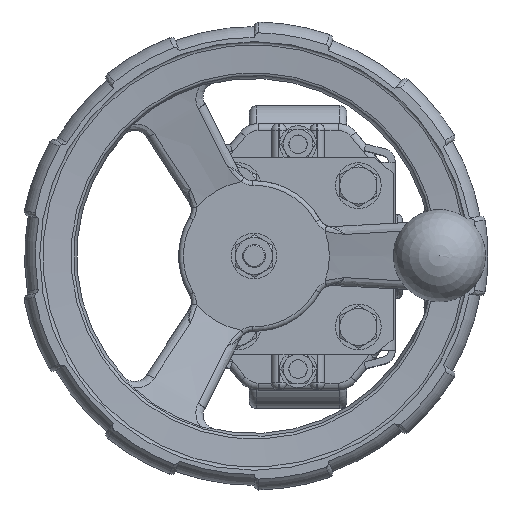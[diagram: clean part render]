
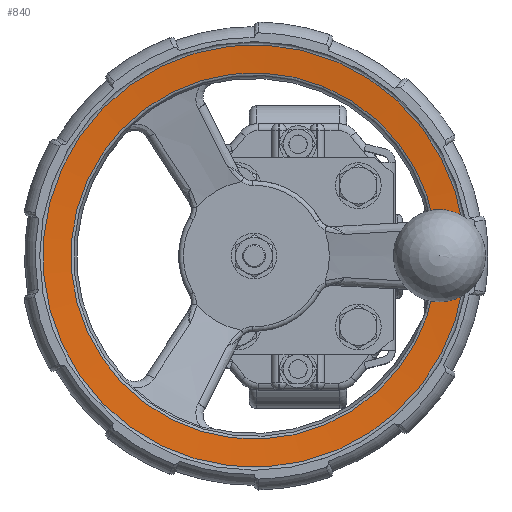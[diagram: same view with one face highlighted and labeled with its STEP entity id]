
A CAD part, top view. The second image highlights one B-rep face of the part: STEP entity #840.
In plain terms, the highlighted conical face has half-angle 85 degrees and reference radius 92.5 mm.
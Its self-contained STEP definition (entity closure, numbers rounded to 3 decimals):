
#840=ADVANCED_FACE('',(#2626),#2627,.F.);
#2626=FACE_OUTER_BOUND('',#42041,.T.);
#2627=CONICAL_SURFACE('',#42042,92.5,1.484);
#42041=EDGE_LOOP('',(#65143,#65144,#65145,#65146,#65147,#65148));
#42042=AXIS2_PLACEMENT_3D('',#65149,#65150,#65151);
#65143=ORIENTED_EDGE('',*,*,#70347,.T.);
#65144=ORIENTED_EDGE('',*,*,#70348,.T.);
#65145=ORIENTED_EDGE('',*,*,#69730,.T.);
#65146=ORIENTED_EDGE('',*,*,#70349,.T.);
#65147=ORIENTED_EDGE('',*,*,#70339,.T.);
#65148=ORIENTED_EDGE('',*,*,#70350,.T.);
#65149=CARTESIAN_POINT('',(-19.,0.,321.744));
#65150=DIRECTION('',(0.,0.,1.));
#65151=DIRECTION('',(-1.,0.,0.));
#69730=EDGE_CURVE('',#73423,#73424,#73425,.T.);
#70339=EDGE_CURVE('',#74375,#74377,#74379,.T.);
#70347=EDGE_CURVE('',#74387,#74388,#74389,.T.);
#70348=EDGE_CURVE('',#74388,#73423,#74390,.T.);
#70349=EDGE_CURVE('',#73424,#74375,#74391,.T.);
#70350=EDGE_CURVE('',#74377,#74387,#74392,.T.);
#73423=VERTEX_POINT('',#84532);
#73424=VERTEX_POINT('',#84533);
#73425=B_SPLINE_CURVE_WITH_KNOTS('',3,(#84534,#84535,#84536,#84537),.UNSPECIFIED.,.F.,.F.,(4,4),(0.014,0.024),.UNSPECIFIED.);
#74375=VERTEX_POINT('',#87784);
#74377=VERTEX_POINT('',#87793);
#74379=CIRCLE('',#87800,79.042);
#74387=VERTEX_POINT('',#87852);
#74388=VERTEX_POINT('',#87853);
#74389=B_SPLINE_CURVE_WITH_KNOTS('',3,(#87854,#87855,#87856,#87857),.UNSPECIFIED.,.F.,.F.,(4,4),(0.021,0.032),.UNSPECIFIED.);
#74390=CIRCLE('',#87858,91.131);
#74391=B_SPLINE_CURVE_WITH_KNOTS('',3,(#87859,#87860,#87861,#87862),.UNSPECIFIED.,.F.,.F.,(4,4),(0.001,0.003),.UNSPECIFIED.);
#74392=B_SPLINE_CURVE_WITH_KNOTS('',3,(#87863,#87864,#87865,#87866),.UNSPECIFIED.,.F.,.F.,(4,4),(0.,0.002),.UNSPECIFIED.);
#84532=CARTESIAN_POINT('',(71.269,-12.5,321.624));
#84533=CARTESIAN_POINT('',(61.001,-12.5,320.736));
#84534=CARTESIAN_POINT('',(71.269,-12.5,321.624));
#84535=CARTESIAN_POINT('',(67.847,-12.5,321.328));
#84536=CARTESIAN_POINT('',(64.424,-12.5,321.031));
#84537=CARTESIAN_POINT('',(61.001,-12.5,320.736));
#87784=CARTESIAN_POINT('',(59.071,-12.35,320.567));
#87793=CARTESIAN_POINT('',(59.071,12.35,320.567));
#87800=AXIS2_PLACEMENT_3D('',#92366,#92367,#92368);
#87852=CARTESIAN_POINT('',(61.001,12.5,320.736));
#87853=CARTESIAN_POINT('',(71.269,12.5,321.624));
#87854=CARTESIAN_POINT('',(61.001,12.5,320.736));
#87855=CARTESIAN_POINT('',(64.424,12.5,321.031));
#87856=CARTESIAN_POINT('',(67.847,12.5,321.328));
#87857=CARTESIAN_POINT('',(71.269,12.5,321.624));
#87858=AXIS2_PLACEMENT_3D('',#92374,#92375,#92376);
#87859=CARTESIAN_POINT('',(61.001,-12.5,320.736));
#87860=CARTESIAN_POINT('',(60.355,-12.5,320.68));
#87861=CARTESIAN_POINT('',(59.712,-12.45,320.623));
#87862=CARTESIAN_POINT('',(59.071,-12.35,320.567));
#87863=CARTESIAN_POINT('',(59.071,12.35,320.567));
#87864=CARTESIAN_POINT('',(59.712,12.45,320.623));
#87865=CARTESIAN_POINT('',(60.355,12.5,320.68));
#87866=CARTESIAN_POINT('',(61.001,12.5,320.736));
#92366=CARTESIAN_POINT('',(-19.,0.,320.567));
#92367=DIRECTION('',(0.,0.,-1.));
#92368=DIRECTION('',(1.,0.,0.));
#92374=CARTESIAN_POINT('',(-19.,0.,321.624));
#92375=DIRECTION('',(0.,0.,1.));
#92376=DIRECTION('',(-1.,0.,0.));
